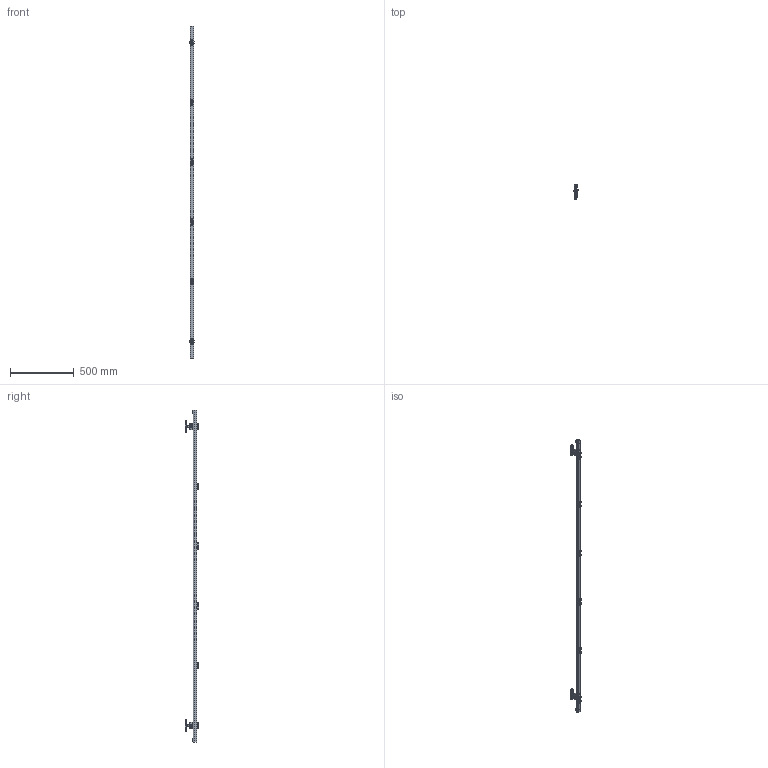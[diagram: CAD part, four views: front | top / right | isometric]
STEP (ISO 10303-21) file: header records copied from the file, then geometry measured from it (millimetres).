
FILE_DESCRIPTION(/* description */ ('Komplettsortiment Nr.0 - 2,6m'),/* implementation_level */ '2;1');
FILE_NAME(/* name */ 'D:\Public\STP\010339508-TP.stp',/* time_stamp */ '2020-05-13T16:18:35+02:00',/* author */ ('O. Loukota'),/* organization */ (''),/* preprocessor_version */ 'ST-DEVELOPER v17.2',/* originating_system */ 'Autodesk Inventor 2019',/* authorisation */ '');
FILE_SCHEMA (('AUTOMOTIVE_DESIGN { 1 0 10303 214 3 1 1 }'));
Length unit declared in the file: millimetre
Products named in the file (24): 010339508; 011337055; 010330823; 000302104; 000302101; DIN EN ISO 4017 - M8  x 16; DIN EN ISO 7093 - 8,4; DIN EN ISO 4035 - M8; DIN EN ISO 10642 - M4  x  10; DIN EN ISO 4032 - M4; DIN EN ISO 7090 - 4,3; 000301993; DIN EN ISO 7090 - 5,3; 010336403; 337000122; 337000223; 336290000; 000303230; 000302243; 000304010; DIN 6798 - A  10,5; DIN EN ISO 4017 - M10  x 40; DIN EN ISO 4035 - M10; 010330969
Assembly tree (59 placements, depth 3):
  010339508
    011337055
    010330823  x2
      000302104
      000302101
      DIN EN ISO 4017 - M8  x 16
      DIN EN ISO 7093 - 8,4
      DIN EN ISO 4035 - M8
    DIN EN ISO 10642 - M4  x  10  x6
    DIN EN ISO 4032 - M4  x6
    DIN EN ISO 7090 - 4,3  x6
    000301993  x6
    DIN EN ISO 7090 - 5,3  x6
    010336403  x2
      337000122
      337000223
      336290000
      000303230
      000302243
      000304010
      DIN 6798 - A  10,5
      DIN EN ISO 4017 - M10  x 40
      DIN EN ISO 4035 - M10
    010330969  x2
Bounding box: 31.87 x 105.59 x 2600 mm (x, y, z)
Volume: 540313.1 mm3; surface area: 578028.3 mm2
Topology: 77 solids, 77 shells, 1558 faces, 3960 edges, 2598 vertices
Faces by surface type: plane 850, cylinder 480, cone 186, torus 28, bspline 14
Full cylindrical faces by diameter (mm): 3.242 x6, 4 x30, 4.3 x6, 5.3 x6, 6 x22, 6.1 x12, 6.647 x2, 7.3 x2, 7.323 x2, 7.53 x6, 7.8 x2, 8 x6, 8.376 x6, 8.4 x2, 9 x8, 9.188 x2, 10 x10, 10.5 x2, 11.4 x2, 15.4 x2, 24 x2
Entity records: 17314 total; most frequent: CARTESIAN_POINT 3400, DIRECTION 2905, ORIENTED_EDGE 2626, EDGE_CURVE 1313, AXIS2_PLACEMENT_3D 1085, VERTEX_POINT 857, LINE 735, VECTOR 735
